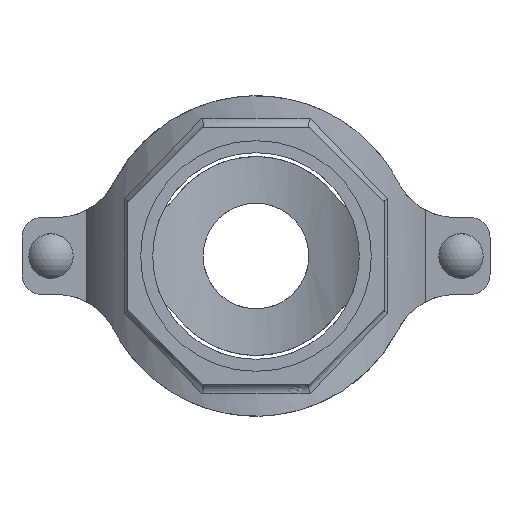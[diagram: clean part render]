
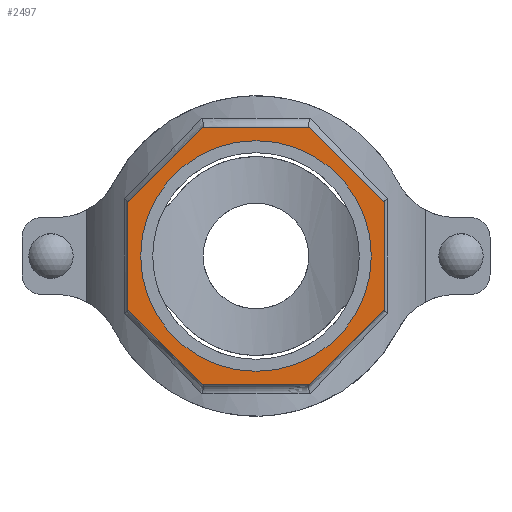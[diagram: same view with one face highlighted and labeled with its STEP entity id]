
A CAD part, front view. The second image highlights one B-rep face of the part: STEP entity #2497.
In plain terms, the highlighted planar face has unit normal (0, -1, 0) as drawn and (0, 1, 0) by its records, which use the part's own axes.
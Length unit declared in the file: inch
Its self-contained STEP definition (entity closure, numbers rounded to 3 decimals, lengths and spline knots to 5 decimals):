
#182=FACE_BOUND('',#449,.T.);
#299=FACE_OUTER_BOUND('',#448,.T.);
#448=EDGE_LOOP('',(#2094,#2095,#2096,#2097,#2098,#2099,#2100,#2101));
#449=EDGE_LOOP('',(#2102));
#586=LINE('',#4649,#770);
#589=LINE('',#4654,#773);
#591=LINE('',#4658,#775);
#593=LINE('',#4662,#777);
#627=LINE('',#5069,#811);
#629=LINE('',#5073,#813);
#631=LINE('',#5077,#815);
#633=LINE('',#5080,#817);
#770=VECTOR('',#3234,0.3937);
#773=VECTOR('',#3239,0.3937);
#775=VECTOR('',#3243,0.3937);
#777=VECTOR('',#3247,0.3937);
#811=VECTOR('',#3361,0.3937);
#813=VECTOR('',#3365,0.3937);
#815=VECTOR('',#3369,0.3937);
#817=VECTOR('',#3373,0.3937);
#901=CIRCLE('',#2754,2.25);
#1083=VERTEX_POINT('',#4646);
#1084=VERTEX_POINT('',#4648);
#1085=VERTEX_POINT('',#4652);
#1086=VERTEX_POINT('',#4656);
#1087=VERTEX_POINT('',#4660);
#1114=VERTEX_POINT('',#4894);
#1138=VERTEX_POINT('',#5068);
#1139=VERTEX_POINT('',#5072);
#1140=VERTEX_POINT('',#5076);
#1390=EDGE_CURVE('',#1084,#1083,#586,.T.);
#1393=EDGE_CURVE('',#1083,#1085,#589,.T.);
#1395=EDGE_CURVE('',#1085,#1086,#591,.T.);
#1397=EDGE_CURVE('',#1086,#1087,#593,.T.);
#1433=EDGE_CURVE('',#1114,#1114,#901,.T.);
#1465=EDGE_CURVE('',#1138,#1084,#627,.T.);
#1467=EDGE_CURVE('',#1139,#1138,#629,.T.);
#1469=EDGE_CURVE('',#1140,#1139,#631,.T.);
#1471=EDGE_CURVE('',#1087,#1140,#633,.T.);
#2094=ORIENTED_EDGE('',*,*,#1471,.T.);
#2095=ORIENTED_EDGE('',*,*,#1469,.T.);
#2096=ORIENTED_EDGE('',*,*,#1467,.T.);
#2097=ORIENTED_EDGE('',*,*,#1465,.T.);
#2098=ORIENTED_EDGE('',*,*,#1390,.T.);
#2099=ORIENTED_EDGE('',*,*,#1393,.T.);
#2100=ORIENTED_EDGE('',*,*,#1395,.T.);
#2101=ORIENTED_EDGE('',*,*,#1397,.T.);
#2102=ORIENTED_EDGE('',*,*,#1433,.T.);
#2242=PLANE('',#2777);
#2497=ADVANCED_FACE('',(#299,#182),#2242,.T.);
#2754=AXIS2_PLACEMENT_3D('',#4895,#3307,#3308);
#2777=AXIS2_PLACEMENT_3D('',#5081,#3374,#3375);
#3234=DIRECTION('',(0.,0.,1.));
#3239=DIRECTION('',(0.707,0.,0.707));
#3243=DIRECTION('',(1.,0.,0.));
#3247=DIRECTION('',(0.707,0.,-0.707));
#3307=DIRECTION('center_axis',(0.,-1.,0.));
#3308=DIRECTION('ref_axis',(-1.,0.,0.));
#3361=DIRECTION('',(-0.707,0.,0.707));
#3365=DIRECTION('',(-1.,0.,0.));
#3369=DIRECTION('',(-0.707,0.,-0.707));
#3373=DIRECTION('',(0.,0.,-1.));
#3374=DIRECTION('center_axis',(0.,1.,0.));
#3375=DIRECTION('ref_axis',(0.,0.,1.));
#4646=CARTESIAN_POINT('',(-2.5,5.75,1.03553));
#4648=CARTESIAN_POINT('',(-2.5,5.75,-1.03553));
#4649=CARTESIAN_POINT('',(-2.5,5.75,1.03553));
#4652=CARTESIAN_POINT('',(-1.03553,5.75,2.5));
#4654=CARTESIAN_POINT('',(-1.03553,5.75,2.5));
#4656=CARTESIAN_POINT('',(1.03553,5.75,2.5));
#4658=CARTESIAN_POINT('',(1.03553,5.75,2.5));
#4660=CARTESIAN_POINT('',(2.5,5.75,1.03553));
#4662=CARTESIAN_POINT('',(2.5,5.75,1.03553));
#4894=CARTESIAN_POINT('',(2.25,5.75,0.));
#4895=CARTESIAN_POINT('Origin',(0.,5.75,0.));
#5068=CARTESIAN_POINT('',(-1.03553,5.75,-2.5));
#5069=CARTESIAN_POINT('',(-2.5,5.75,-1.03553));
#5072=CARTESIAN_POINT('',(1.03553,5.75,-2.5));
#5073=CARTESIAN_POINT('',(-1.03553,5.75,-2.5));
#5076=CARTESIAN_POINT('',(2.5,5.75,-1.03553));
#5077=CARTESIAN_POINT('',(1.03553,5.75,-2.5));
#5080=CARTESIAN_POINT('',(2.5,5.75,-1.03553));
#5081=CARTESIAN_POINT('Origin',(0.,5.75,0.));
